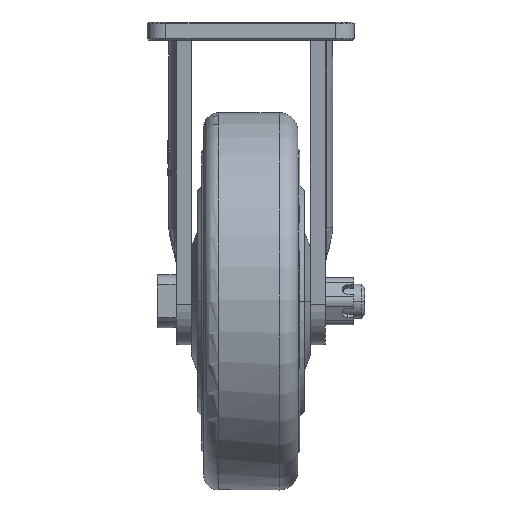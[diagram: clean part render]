
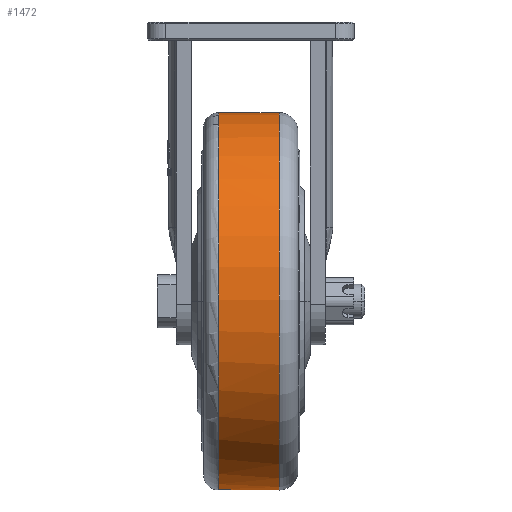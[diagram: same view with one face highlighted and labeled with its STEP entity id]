
A CAD part, left-side view. The second image highlights one B-rep face of the part: STEP entity #1472.
In plain terms, the highlighted cylindrical face has radius 100 mm (diameter 200 mm), a full revolution.
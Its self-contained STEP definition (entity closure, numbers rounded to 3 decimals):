
#890=FACE_BOUND('',#2767,.T.);
#891=FACE_BOUND('',#2768,.T.);
#1472=ADVANCED_FACE('',(#890,#891),#1594,.T.);
#1594=CYLINDRICAL_SURFACE('',#11042,100.);
#2767=EDGE_LOOP('',(#6245));
#2768=EDGE_LOOP('',(#6246));
#3405=CIRCLE('',#11039,100.);
#3406=CIRCLE('',#11041,100.);
#6245=ORIENTED_EDGE('',*,*,#8627,.T.);
#6246=ORIENTED_EDGE('',*,*,#8626,.T.);
#7195=VERTEX_POINT('',#20319);
#7196=VERTEX_POINT('',#20322);
#8626=EDGE_CURVE('',#7195,#7195,#3405,.T.);
#8627=EDGE_CURVE('',#7196,#7196,#3406,.T.);
#11039=AXIS2_PLACEMENT_3D('',#20318,#14295,#14296);
#11041=AXIS2_PLACEMENT_3D('',#20321,#14299,#14300);
#11042=AXIS2_PLACEMENT_3D('',#20323,#14301,#14302);
#14295=DIRECTION('',(0.,1.,0.));
#14296=DIRECTION('',(-1.,0.,0.));
#14299=DIRECTION('',(0.,-1.,0.));
#14300=DIRECTION('',(1.,0.,0.));
#14301=DIRECTION('',(0.,1.,0.));
#14302=DIRECTION('',(-1.,0.,0.));
#20318=CARTESIAN_POINT('',(0.,-15.,-148.));
#20319=CARTESIAN_POINT('',(-99.998,-15.,-147.373));
#20321=CARTESIAN_POINT('',(0.,17.,-148.));
#20322=CARTESIAN_POINT('',(99.999,17.,-147.558));
#20323=CARTESIAN_POINT('',(0.,-25.,-148.));
